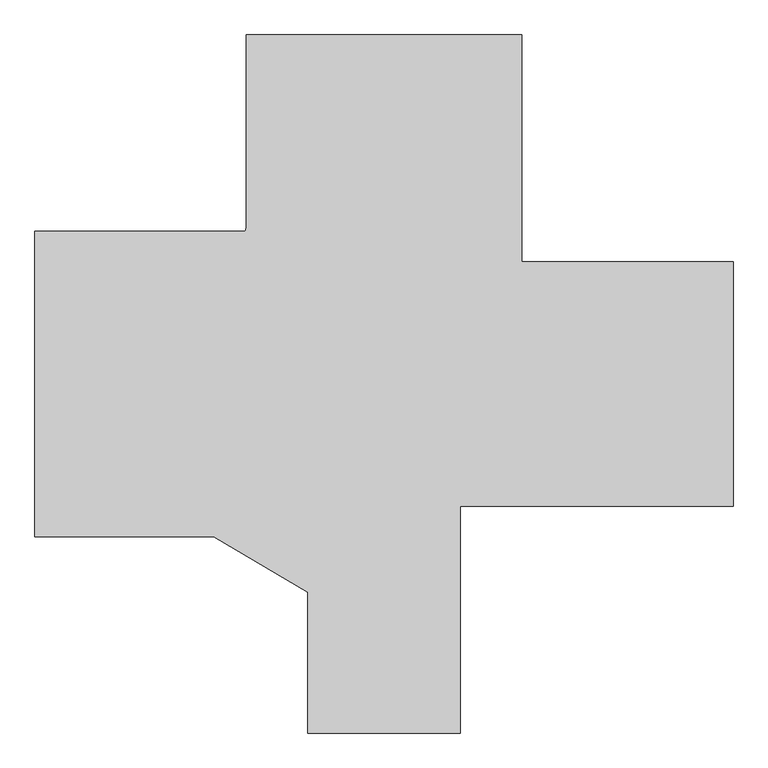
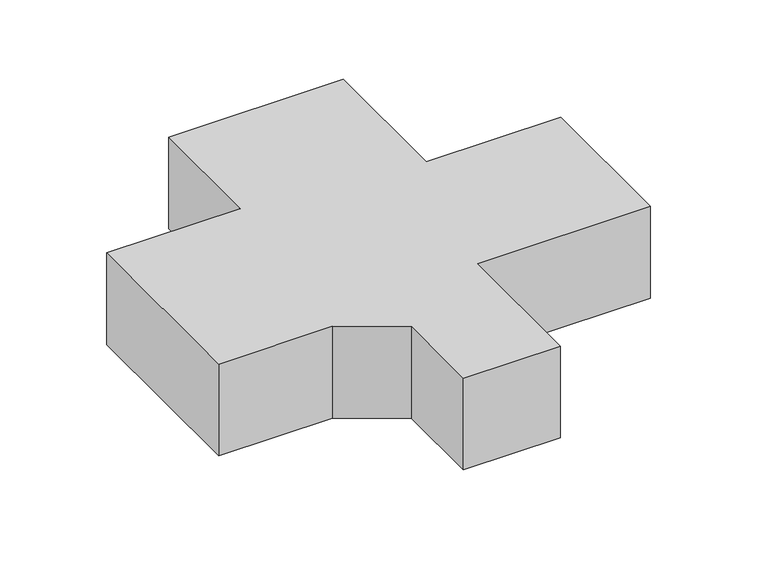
"""IFC4 building model written with IfcOpenShell, lengths in millimetres: duct fitting geometry, 2017_Cruz_Climaver_Cruz-Rectangular_Ramificación-Triple : Cruz_Rectangular_Ramificación-Triple_Climaver."""

from ifc_helpers import new_model, si_unit, frame, origin, place, context, project, spatial, polyline, outline, extrude, source, transform, mapped, element, save


def duct_fitting_5117f951(model_context):
    return source(origin(), model_context, "Body", "SweptSolid", [
        extrude(outline(polyline([(-1141.4213562, -500.0), (-1141.4213562, 500.0), (-453.2205422, 500.0), (-450.0, 512.419879), (-450.0, 1141.4213562), (450.0, 1141.4213562), (450.0, 400.0), (1141.4213562, 400.0), (1141.4213562, -400.0), (250.0, -400.0), (250.0, -1141.4213562), (-250.0, -1141.4213562), (-250.0, -680.6307181), (-556.1262506, -500.0), (-1141.4213562, -500.0)])), frame((0.0, 0.0, -250.0), z_axis=(0.0, 0.0, 1.0), x_axis=(1.0, 0.0, 0.0)), (0.0, 0.0, 1.0), 500.0),
    ])


if __name__ == "__main__":
    model = new_model("IFC4")
    model_context = context("Model", 3, world=origin())
    ifc_project = project(units=[si_unit("LENGTHUNIT", "METRE", prefix="MILLI")], contexts=[model_context])
    site = spatial("IfcSite", under=ifc_project)
    building = spatial("IfcBuilding", under=site)
    placement = place(None, origin())
    duct_fitting_shape = duct_fitting_5117f951(model_context)
    element("IfcDuctFitting", 1, ObjectType="2017_Cruz_Climaver_Cruz-Rectangular_Ramificación-Triple : Cruz_Rectangular_Ramificación-Triple_Climaver", at=placement, inside=building, context=model_context, shape_type="MappedRepresentation", body=[
        mapped(duct_fitting_shape, transform((0.0, 0.0, 0.0), x_axis=(1.0, 0.0, 0.0), y_axis=(0.0, 1.0, 0.0), z_axis=(0.0, 0.0, 1.0))),
    ])
    save(model, "model.ifc")
